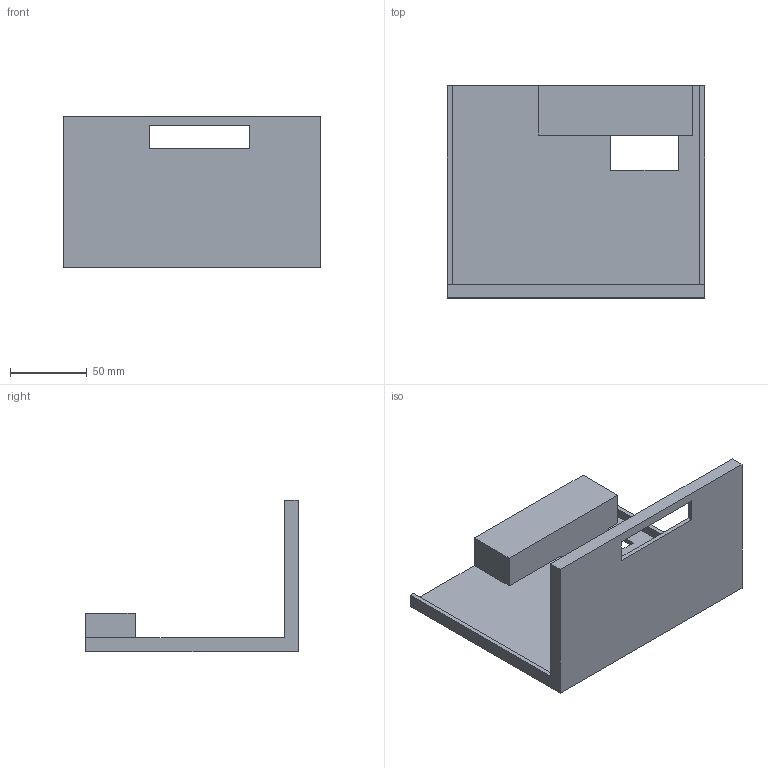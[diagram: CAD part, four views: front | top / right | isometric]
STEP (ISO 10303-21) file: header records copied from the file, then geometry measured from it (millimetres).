
FILE_DESCRIPTION(('FreeCAD Model'),'2;1');
FILE_NAME('/home/mike/Documents/3D/FreeCAD/CNC/STEP/CaseCover.step', '2017-05-30T22:15:07',('Author'),(''), 'Open CASCADE STEP processor 6.7','FreeCAD','Unknown');
FILE_SCHEMA(('AUTOMOTIVE_DESIGN_CC2 { 1 2 10303 214 -1 1 5 4 }'));
Length unit declared in the file: millimetre
Products named in the file (1): Cover
Bounding box: 167 x 138 x 98.5 mm (x, y, z)
Volume: 192402.5 mm3; surface area: 90392 mm2
Topology: 1 solids, 1 shells, 25 faces, 72 edges, 48 vertices
Faces by surface type: plane 25
Entity records: 1771 total; most frequent: CARTESIAN_POINT 290, DIRECTION 268, LINE 216, VECTOR 216, ORIENTED_EDGE 144, PCURVE 144, DEFINITIONAL_REPRESENTATION 144, EDGE_CURVE 72
